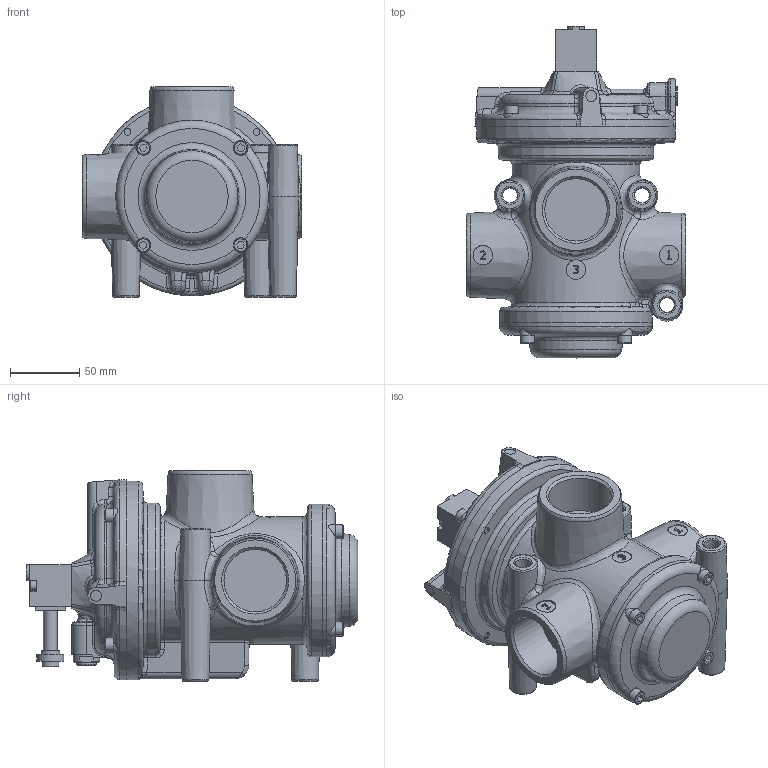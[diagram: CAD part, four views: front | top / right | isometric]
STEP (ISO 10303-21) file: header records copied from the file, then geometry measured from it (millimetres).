
FILE_DESCRIPTION(/* description */ ('EV.OTT. x VUOTO 3/2 NA SOL-MOLLA AUTOALIM. CON M3R'),/* implementation_level */ '2;1');
FILE_NAME(/* name */ 'C:\PNX_VAULTFOLDER\Area Tecnica\Disegni\VARIE-3D\Componenti\1900 (vuoto)\N776-V_32_0_1AA_M3R.stp',/* time_stamp */ '2018-06-18T15:51:49+02:00',/* author */ ('maniean1'),/* organization */ ('Pneumax S.p.A.'),/* preprocessor_version */ 'ST-DEVELOPER v16.5',/* originating_system */ 'Autodesk Inventor 2017',/* authorisation */ '');
FILE_SCHEMA (('AUTOMOTIVE_DESIGN { 1 0 10303 214 3 1 1 }'));
Length unit declared in the file: millimetre
Products named in the file (1): N776/V.32.0.1AA.M3R
Bounding box: 158 x 239 x 151.5 mm (x, y, z)
Volume: 1927842.9 mm3; surface area: 172352.5 mm2
Topology: 1 solids, 17 shells, 748 faces, 1808 edges, 1126 vertices
Faces by surface type: plane 264, bspline 193, cylinder 130, cone 86, torus 65, sphere 10
Full cylindrical faces by diameter (mm): 4.917 x8, 6 x8, 7 x3, 7.3 x1, 8 x3, 10 x10, 12 x1, 13.3 x1, 14 x5, 18 x1, 19 x1, 19.5 x1, 45 x3, 100 x1, 110 x2, 143 x1
Entity records: 29520 total; most frequent: CARTESIAN_POINT 13210, ORIENTED_EDGE 3202, DIRECTION 2904, EDGE_CURVE 1601, AXIS2_PLACEMENT_3D 1183, VERTEX_POINT 1060, EDGE_LOOP 949, FACE_OUTER_BOUND 748
